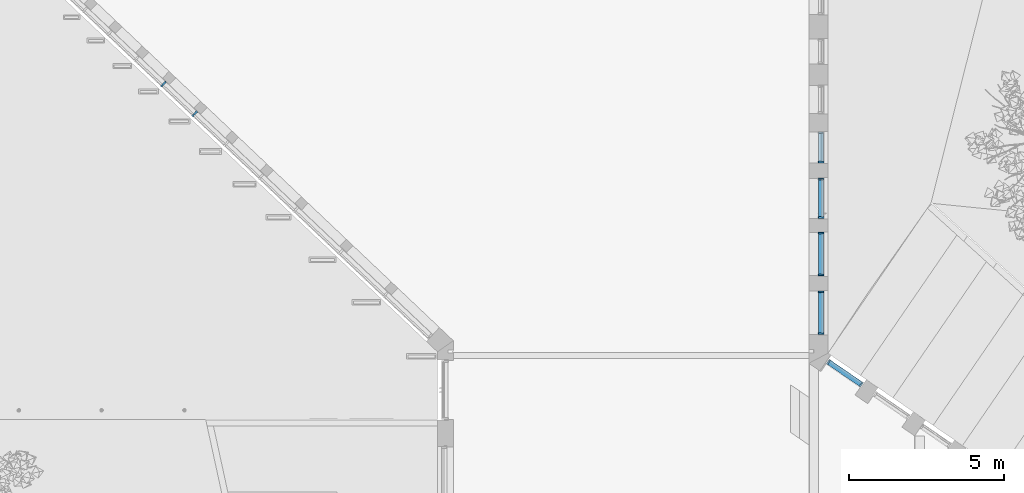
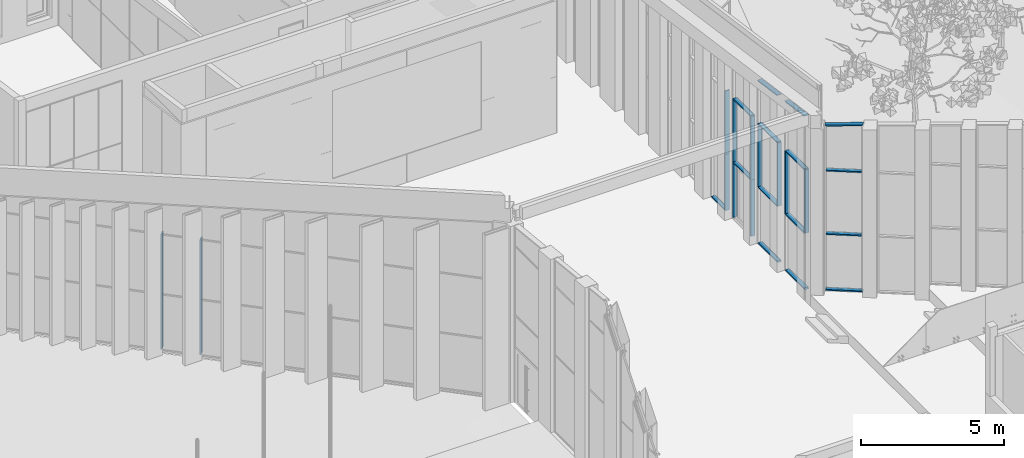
# One storey, part 10 of 246: 29 members, 6 elements without a shape of their own.
"""IFC2X3 building model written with IfcOpenShell, lengths in millimetres."""

from ifc_helpers import new_model, entity, si_unit, converted_unit, derived_unit, money_unit, direction, frame, origin_with_axes, place, context, subcontext, project, spatial, faceted_brep, source, transform, mapped, material, type_object, element, aggregate, save


model = new_model("IFC2X3")

# Units and contexts
model_context = context("Model", 3, precision=0.01, world=origin_with_axes(), true_north=direction((0.0, 1.0)))
body_context = subcontext(model_context, "Body", "Model", "MODEL_VIEW")
ifc_project = project(units=[si_unit("LENGTHUNIT", "METRE", prefix="MILLI"), si_unit("AREAUNIT", "SQUARE_METRE"), si_unit("VOLUMEUNIT", "CUBIC_METRE"), converted_unit("PLANEANGLEUNIT", "DEGREE", entity("IfcPlaneAngleMeasure", 0.0174532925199), si_unit("PLANEANGLEUNIT", "RADIAN"), dimensions=[0, 0, 0, 0, 0, 0, 0]), si_unit("SOLIDANGLEUNIT", "STERADIAN"), money_unit("EUR"), converted_unit("TIMEUNIT", "Year", entity("IfcTimeMeasure", 31556926.0), si_unit("TIMEUNIT", "SECOND"), dimensions=[0, 0, 1, 0, 0, 0, 0]), si_unit("MASSUNIT", "GRAM", prefix="KILO"), si_unit("THERMODYNAMICTEMPERATUREUNIT", "DEGREE_CELSIUS"), si_unit("LUMINOUSINTENSITYUNIT", "LUMEN"), si_unit("ENERGYUNIT", "JOULE", prefix="MEGA"), derived_unit("THERMALCONDUCTANCEUNIT", [(si_unit("POWERUNIT", "WATT"), 1), (si_unit("LENGTHUNIT", "METRE"), -1), (si_unit("THERMODYNAMICTEMPERATUREUNIT", "KELVIN"), -1)]), derived_unit("SPECIFICHEATCAPACITYUNIT", [(si_unit("ENERGYUNIT", "JOULE"), 1), (si_unit("MASSUNIT", "GRAM", prefix="KILO"), -1), (si_unit("THERMODYNAMICTEMPERATUREUNIT", "KELVIN"), -1)]), derived_unit("MASSDENSITYUNIT", [(si_unit("MASSUNIT", "GRAM", prefix="KILO"), 1), (si_unit("VOLUMEUNIT", "CUBIC_METRE"), -1)])], contexts=[model_context])

# Site, building, storey
site_placement = place(None, origin_with_axes())
site = spatial("IfcSite", under=ifc_project, at=site_placement, Name="L.Koidula tn 11b", CompositionType="ELEMENT")
building_placement = place(site_placement, origin_with_axes())
building = spatial("IfcBuilding", under=site, at=building_placement, Name="Rakvere Riigigümnaasium", CompositionType="ELEMENT")
storey_placement = place(building_placement, origin_with_axes())
storey = spatial("IfcBuildingStorey", under=building, at=storey_placement, Name="1.korrus 0,00", CompositionType="ELEMENT", Elevation=0.0)

# Curtain wall, members
curtain_wall_type = type_object("IfcCurtainWallType", Name="Curtain Wall Type", PredefinedType="NOTDEFINED")
curtain_wall_1_placement = place(storey_placement, frame((47434.0002355, 45350.4555374, 5.21984029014), z_axis=(0.0, 0.0, 1.0), x_axis=(1.0, 0.0, 0.0)))
curtain_wall_1 = element("IfcCurtainWall", 1, at=curtain_wall_1_placement, inside=storey, type_object=curtain_wall_type, Name="KLF-07-01")
ifc_material = material(Name="Alumiiniumprofiil (RAL 7021)")
member_type_1 = type_object("IfcMemberType", Name="Boundary Frame 50 x 170", PredefinedType="MULLION")
shared_shape_1 = source(origin_with_axes(), body_context, "Body", "Brep", [
    faceted_brep([(-37.0, -26.0, 2700.00000012), (-50.0, -26.0, 2700.00000012), (-50.0, -124.0, 2700.00000012), (0.0, -124.0, 2700.00000012), (0.0, 46.0, 2700.00000012), (-50.0, 46.0, 2700.00000012), (-50.0, 26.0, 2700.00000012), (-37.0, 26.0, 2700.00000012), (-37.0, -26.0, -5.18836085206e-07), (-50.0, -26.0, -5.18836307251e-07), (-50.0, -124.0, -5.18836307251e-07), (0.0, -124.0, -5.18836307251e-07), (0.0, 46.0, -5.18836307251e-07), (-50.0, 46.0, -5.18836307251e-07), (-50.0, 26.0, -5.18836307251e-07), (-37.0, 26.0, -5.18836085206e-07)], [[[0, 1, 2, 3, 4, 5, 6, 7]], [[0, 8, 9, 1]], [[9, 10, 2, 1]], [[10, 11, 3, 2]], [[11, 12, 4, 3]], [[12, 13, 5, 4]], [[6, 5, 13, 14]], [[14, 15, 7, 6]], [[7, 15, 8, 0]], [[8, 15, 14, 13, 12, 11, 10, 9]]]),
])
member_1_placement = place(curtain_wall_1_placement, frame((-0.000241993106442, -699.999963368, 2394.78015971), z_axis=(0.0, 5.41248560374e-09, 1.0), x_axis=(3.45704454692e-07, 1.0, -5.41248560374e-09)))
member_1 = element("IfcMember", 2, at=member_1_placement, type_object=member_type_1, material=ifc_material, Name="KLF-07-06-Profiilid", ObjectType="MULLION", context=body_context, shape_type="MappedRepresentation", body=[
    mapped(shared_shape_1, transform((0.0, 0.0, 0.0), x_axis=(-1.0, 0.0, -5.41248560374e-09), y_axis=(0.0, -1.0, 0.0), z_axis=(-5.41248560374e-09, 0.0, 1.0))),
])
member_2_placement = place(curtain_wall_1_placement, frame((0.000241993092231, 699.999914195, 5094.78015971), z_axis=(0.0, 3.13438795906e-08, -1.0), x_axis=(-3.45704454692e-07, -1.0, -3.13438795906e-08)))
member_2 = element("IfcMember", 3, at=member_2_placement, type_object=member_type_1, material=ifc_material, Name="KLF-07-10-Profiilid", ObjectType="MULLION", context=body_context, shape_type="MappedRepresentation", body=[
    mapped(shared_shape_1, transform((0.0, 0.0, 0.0), x_axis=(-1.0, 0.0, 3.13438794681e-08), y_axis=(0.0, -1.0, 0.0), z_axis=(3.13438794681e-08, 0.0, 1.0))),
])

# Curtain wall, member
curtain_wall_2_placement = place(storey_placement, frame((47434.0004775, 47250.4555065, 5.1807707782), z_axis=(0.0, 0.0, 1.0), x_axis=(1.0, 0.0, 0.0)))
curtain_wall_2 = element("IfcCurtainWall", 4, at=curtain_wall_2_placement, inside=storey, type_object=curtain_wall_type, Name="KLF-07-02")
member_3_placement = place(curtain_wall_2_placement, frame((0.0, -699.999994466, 2394.81922922), z_axis=(0.0, -8.15769377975e-09, 1.0), x_axis=(0.0, 1.0, 8.15769377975e-09)))
member_3 = element("IfcMember", 5, at=member_3_placement, type_object=member_type_1, material=ifc_material, Name="KLF-07-85-Profiilid", ObjectType="MULLION", context=body_context, shape_type="MappedRepresentation", body=[
    mapped(shared_shape_1, transform((0.0, 0.0, 0.0), x_axis=(-1.0, 0.0, 8.15769377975e-09), y_axis=(0.0, -1.0, 0.0), z_axis=(8.15769377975e-09, 0.0, 1.0))),
])

# Curtain wall, members
curtain_wall_3_placement = place(storey_placement, frame((47434.0004775, 49050.4555635, 0.0), z_axis=(0.0, 0.0, 1.0), x_axis=(1.0, 0.0, 0.0)))
curtain_wall_3 = element("IfcCurtainWall", 6, at=curtain_wall_3_placement, inside=storey, type_object=curtain_wall_type, Name="KLF-07-03")
member_4_placement = place(curtain_wall_3_placement, frame((0.0, -649.999959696, 2400.0), z_axis=(0.0, 1.25973700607e-08, 1.0), x_axis=(0.0, 1.0, -1.25973700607e-08)))
member_4 = element("IfcMember", 7, at=member_4_placement, type_object=member_type_1, material=ifc_material, Name="KLF-07-72-Profiilid", ObjectType="MULLION", context=body_context, shape_type="MappedRepresentation", body=[
    mapped(shared_shape_1, transform((0.0, 0.0, 0.0), x_axis=(-1.0, 0.0, -1.25973700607e-08), y_axis=(0.0, -1.0, 0.0), z_axis=(-1.25973700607e-08, 0.0, 1.0))),
])
member_5_placement = place(curtain_wall_3_placement, frame((0.0, 649.99994269, 5100.0), z_axis=(0.0, 0.0, -1.0), x_axis=(0.0, -1.0, 0.0)))
member_5 = element("IfcMember", 8, at=member_5_placement, type_object=member_type_1, material=ifc_material, Name="KLF-07-76-Profiilid", ObjectType="MULLION", context=body_context, shape_type="MappedRepresentation", body=[
    mapped(shared_shape_1, transform((0.0, 0.0, 0.0), x_axis=(-1.0, 0.0, 0.0), y_axis=(0.0, -1.0, 0.0), z_axis=(0.0, 0.0, 1.0))),
])

curtain_wall_4_placement = place(storey_placement, frame((47434.0004775, 50700.4459651, -5.70142248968e-05), z_axis=(0.0, 0.0, 1.0), x_axis=(1.0, 0.0, 0.0)))
curtain_wall_4 = element("IfcCurtainWall", 9, at=curtain_wall_4_placement, inside=storey, type_object=curtain_wall_type, Name="KLF-07-04")
member_6_placement = place(curtain_wall_4_placement, frame((0.0, -500.000114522, 2400.00005701), z_axis=(0.0, 4.60176134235e-08, 1.0), x_axis=(0.0, 1.0, -4.60176134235e-08)))
member_6 = element("IfcMember", 10, at=member_6_placement, type_object=member_type_1, material=ifc_material, Name="KLF-07-88-Profiilid", ObjectType="MULLION", context=body_context, shape_type="MappedRepresentation", body=[
    mapped(shared_shape_1, transform((0.0, 0.0, 0.0), x_axis=(-1.0, 0.0, -4.60176134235e-08), y_axis=(0.0, -1.0, 0.0), z_axis=(-4.60176134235e-08, 0.0, 1.0))),
])
shared_shape_2 = source(origin_with_axes(), body_context, "Body", "Brep", [
    faceted_brep([(-37.0, -26.0, 2400.00000019), (-50.0, -26.0, 2400.00000019), (-50.0, -124.0, 2400.00000019), (0.0, -124.0, 2400.00000019), (0.0, 46.0, 2400.00000019), (-50.0, 46.0, 2400.00000019), (-50.0, 26.0, 2400.00000019), (-37.0, 26.0, 2400.00000019), (-37.0, -26.0, 37.0), (-50.0, -26.0, 50.0), (-50.0, -124.0, 50.0), (0.0, -124.0, 0.0), (0.0, 46.0, 0.0), (-50.0, 46.0, 50.0), (-50.0, 26.0, 50.0), (-37.0, 26.0, 37.0)], [[[0, 1, 2, 3, 4, 5, 6, 7]], [[0, 8, 9, 1]], [[9, 10, 2, 1]], [[2, 10, 11, 3]], [[3, 11, 12, 4]], [[4, 12, 13, 5]], [[6, 5, 13, 14]], [[14, 15, 7, 6]], [[7, 15, 8, 0]], [[8, 15, 14, 13, 12, 11, 10, 9]]]),
])
member_7_placement = place(curtain_wall_4_placement, frame((0.0, -500.000212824, 0.0), z_axis=(0.0, 4.09593090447e-08, 1.0), x_axis=(0.0, 1.0, -4.09593090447e-08)))
member_7 = element("IfcMember", 11, at=member_7_placement, type_object=member_type_1, material=ifc_material, Name="KLF-07-87-Profiilid", ObjectType="MULLION", context=body_context, shape_type="MappedRepresentation", body=[
    mapped(shared_shape_2, transform((0.0, 0.0, 0.0), x_axis=(-1.0, 0.0, -4.09593090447e-08), y_axis=(0.0, -1.0, 0.0), z_axis=(-4.09593090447e-08, 0.0, 1.0))),
])

# Member
shared_shape_3 = source(origin_with_axes(), body_context, "Body", "Brep", [
    faceted_brep([(-37.0, -26.0, 2362.99999837), (-50.0, -26.0, 2349.99999779), (-50.0, -124.0, 2349.99999779), (0.0, -124.0, 2400.0), (0.0, 46.0, 2400.0), (-50.0, 46.0, 2349.99999779), (-50.0, 26.0, 2349.99999779), (-37.0, 26.0, 2362.99999837), (-37.0, -26.0, -1.22574839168e-07), (-50.0, -26.0, -1.22575061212e-07), (-50.0, -124.0, -1.22575061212e-07), (0.0, -124.0, -1.22575061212e-07), (0.0, 46.0, -1.22575061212e-07), (-50.0, 46.0, -1.22575061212e-07), (-50.0, 26.0, -1.22575061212e-07), (-37.0, 26.0, -1.22574839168e-07)], [[[0, 1, 2, 3, 4, 5, 6, 7]], [[0, 8, 9, 1]], [[9, 10, 2, 1]], [[10, 11, 3, 2]], [[11, 12, 4, 3]], [[12, 13, 5, 4]], [[6, 5, 13, 14]], [[14, 15, 7, 6]], [[7, 15, 8, 0]], [[8, 15, 14, 13, 12, 11, 10, 9]]]),
])
member_8_placement = place(curtain_wall_3_placement, frame((0.0, 649.99994269, 2400.0), z_axis=(0.0, 0.0, -1.0), x_axis=(0.0, -1.0, 0.0)))
member_8 = element("IfcMember", 12, at=member_8_placement, type_object=member_type_1, material=ifc_material, Name="KLF-07-69-Profiilid", ObjectType="MULLION", context=body_context, shape_type="MappedRepresentation", body=[
    mapped(shared_shape_3, transform((0.0, 0.0, 0.0), x_axis=(-1.0, 0.0, 0.0), y_axis=(0.0, -1.0, 0.0), z_axis=(0.0, 0.0, 1.0))),
])

shared_shape_4 = source(origin_with_axes(), body_context, "Body", "Brep", [
    faceted_brep([(-37.0, -26.0, 2400.00000087), (-50.0, -26.0, 2400.00000087), (-50.0, -124.0, 2400.00000087), (0.0, -124.0, 2400.00000087), (0.0, 46.0, 2400.00000087), (-50.0, 46.0, 2400.00000087), (-50.0, 26.0, 2400.00000087), (-37.0, 26.0, 2400.00000087), (-37.0, -26.0, -6.12986372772e-06), (-50.0, -26.0, -6.12986394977e-06), (-50.0, -124.0, -6.12986394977e-06), (0.0, -124.0, -6.12986394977e-06), (0.0, 46.0, -6.12986394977e-06), (-50.0, 46.0, -6.12986394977e-06), (-50.0, 26.0, -6.12986394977e-06), (-37.0, 26.0, -6.12986372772e-06)], [[[0, 1, 2, 3, 4, 5, 6, 7]], [[0, 8, 9, 1]], [[9, 10, 2, 1]], [[10, 11, 3, 2]], [[11, 12, 4, 3]], [[12, 13, 5, 4]], [[6, 5, 13, 14]], [[14, 15, 7, 6]], [[7, 15, 8, 0]], [[8, 15, 14, 13, 12, 11, 10, 9]]]),
])
member_9_placement = place(curtain_wall_3_placement, frame((0.0, -649.999959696, 0.0), z_axis=(0.0, 0.0, 1.0), x_axis=(0.0, 1.0, 0.0)))
member_9 = element("IfcMember", 13, at=member_9_placement, type_object=member_type_1, material=ifc_material, Name="KLF-07-71-Profiilid", ObjectType="MULLION", context=body_context, shape_type="MappedRepresentation", body=[
    mapped(shared_shape_4, transform((0.0, 0.0, 0.0), x_axis=(-1.0, 0.0, 0.0), y_axis=(0.0, -1.0, 0.0), z_axis=(0.0, 0.0, 1.0))),
])

# Curtain wall, members
curtain_wall_5_placement = place(storey_placement, frame((33997.0353268, 45217.6604975, 0.0), z_axis=(0.0, 0.0, 1.0), x_axis=(1.0, 0.0, 0.0)))
curtain_wall_5 = element("IfcCurtainWall", 14, at=curtain_wall_5_placement, inside=storey, type_object=curtain_wall_type, Name="KLF-02")
member_type_2 = type_object("IfcMemberType", Name="Mullion Frame 50 x 210", PredefinedType="MULLION")
shared_shape_5 = source(origin_with_axes(), body_context, "Body", "Brep", [
    faceted_brep([(12.0, -26.0, 2550.0), (12.0, 26.0, 2550.0), (25.0, 26.0, 2550.0), (25.0, 56.0, 2550.0), (-25.0, 56.0, 2550.0), (-25.0, 26.0, 2550.0), (-12.0, 26.0, 2550.0), (-12.0, -26.0, 2550.0), (-25.0, -26.0, 2550.0), (-25.0, -154.0, 2550.0), (25.0, -154.0, 2550.0), (25.0, -26.0, 2550.0), (12.0, -26.0, 0.0), (12.0, 26.0, 0.0), (25.0, 26.0, 0.0), (25.0, 56.0, 0.0), (-25.0, 56.0, 0.0), (-25.0, 26.0, 0.0), (-12.0, 26.0, 0.0), (-12.0, -26.0, 0.0), (-25.0, -26.0, 0.0), (-25.0, -154.0, 0.0), (25.0, -154.0, 0.0), (25.0, -26.0, 0.0)], [[[0, 1, 2, 3, 4, 5, 6, 7, 8, 9, 10, 11]], [[0, 12, 13, 1]], [[1, 13, 14, 2]], [[14, 15, 3, 2]], [[3, 15, 16, 4]], [[17, 5, 4, 16]], [[5, 17, 18, 6]], [[7, 6, 18, 19]], [[8, 7, 19, 20]], [[8, 20, 21, 9]], [[9, 21, 22, 10]], [[11, 10, 22, 23]], [[11, 23, 12, 0]], [[13, 12, 23, 22, 21, 20, 19, 18, 17, 16, 15, 14]]]),
])
member_10_placement = place(curtain_wall_5_placement, frame((-7912.96649805, 7496.32984872, 2400.00031279), z_axis=(0.0, 0.0, 1.0), x_axis=(0.725960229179, -0.687736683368, 0.0)))
member_10 = element("IfcMember", 15, at=member_10_placement, type_object=member_type_2, material=ifc_material, Name="KLF-25-Profiilid", ObjectType="MULLION", context=body_context, shape_type="MappedRepresentation", body=[
    mapped(shared_shape_5, transform((0.0, 0.0, 0.0), x_axis=(-1.0, 0.0, 0.0), y_axis=(0.0, -1.0, 0.0), z_axis=(0.0, 0.0, 1.0))),
])
member_11_placement = place(curtain_wall_5_placement, frame((-6896.6221772, 6533.498492, 2400.00031279), z_axis=(0.0, 0.0, 1.0), x_axis=(0.725960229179, -0.687736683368, 0.0)))
member_11 = element("IfcMember", 16, at=member_11_placement, type_object=member_type_2, material=ifc_material, Name="KLF-22-Profiilid", ObjectType="MULLION", context=body_context, shape_type="MappedRepresentation", body=[
    mapped(shared_shape_5, transform((0.0, 0.0, 0.0), x_axis=(-1.0, 0.0, 0.0), y_axis=(0.0, -1.0, 0.0), z_axis=(0.0, 0.0, 1.0))),
])
shared_shape_6 = source(origin_with_axes(), body_context, "Body", "Brep", [
    faceted_brep([(12.0, -26.0, 2400.00031279), (12.0, 26.0, 2400.00031279), (25.0, 26.0, 2400.00031279), (25.0, 56.0, 2400.00031279), (-25.0, 56.0, 2400.00031279), (-25.0, 26.0, 2400.00031279), (-12.0, 26.0, 2400.00031279), (-12.0, -26.0, 2400.00031279), (-25.0, -26.0, 2400.00031279), (-25.0, -154.0, 2400.00031279), (25.0, -154.0, 2400.00031279), (25.0, -26.0, 2400.00031279), (12.0, -26.0, 50.0), (12.0, 26.0, 50.0), (25.0, 26.0, 50.0), (25.0, 56.0, 50.0), (-25.0, 56.0, 50.0), (-25.0, 26.0, 50.0), (-12.0, 26.0, 50.0), (-12.0, -26.0, 50.0), (-25.0, -26.0, 50.0), (-25.0, -154.0, 50.0), (25.0, -154.0, 50.0), (25.0, -26.0, 50.0)], [[[0, 1, 2, 3, 4, 5, 6, 7, 8, 9, 10, 11]], [[0, 12, 13, 1]], [[1, 13, 14, 2]], [[14, 15, 3, 2]], [[4, 3, 15, 16]], [[17, 5, 4, 16]], [[5, 17, 18, 6]], [[7, 6, 18, 19]], [[8, 7, 19, 20]], [[8, 20, 21, 9]], [[10, 9, 21, 22]], [[11, 10, 22, 23]], [[11, 23, 12, 0]], [[13, 12, 23, 22, 21, 20, 19, 18, 17, 16, 15, 14]]]),
])
member_12_placement = place(curtain_wall_5_placement, frame((-7912.96649805, 7496.32984872, 0.0), z_axis=(0.0, 0.0, 1.0), x_axis=(0.725960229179, -0.687736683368, 0.0)))
member_12 = element("IfcMember", 17, at=member_12_placement, type_object=member_type_2, material=ifc_material, Name="KLF-24-Profiilid", ObjectType="MULLION", context=body_context, shape_type="MappedRepresentation", body=[
    mapped(shared_shape_6, transform((0.0, 0.0, 0.0), x_axis=(-1.0, 0.0, 0.0), y_axis=(0.0, -1.0, 0.0), z_axis=(0.0, 0.0, 1.0))),
])
member_13_placement = place(curtain_wall_5_placement, frame((-6896.6221772, 6533.498492, 0.0), z_axis=(0.0, 0.0, 1.0), x_axis=(0.725960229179, -0.687736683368, 0.0)))
member_13 = element("IfcMember", 18, at=member_13_placement, type_object=member_type_2, material=ifc_material, Name="KLF-21-Profiilid", ObjectType="MULLION", context=body_context, shape_type="MappedRepresentation", body=[
    mapped(shared_shape_6, transform((0.0, 0.0, 0.0), x_axis=(-1.0, 0.0, 0.0), y_axis=(0.0, -1.0, 0.0), z_axis=(0.0, 0.0, 1.0))),
])
aggregate(curtain_wall_5, [member_10, member_12, member_11, member_13])

# Member
shared_shape_7 = source(origin_with_axes(), body_context, "Body", "Brep", [
    faceted_brep([(37.0, -26.0, 2700.0), (37.0, 26.0, 2700.0), (50.0, 26.0, 2700.0), (50.0, 46.0, 2700.0), (0.0, 46.0, 2700.0), (0.0, -124.0, 2700.0), (50.0, -124.0, 2700.0), (50.0, -26.0, 2700.0), (37.0, -26.0, 0.0), (37.0, 26.0, 0.0), (50.0, 26.0, 0.0), (50.0, 46.0, 0.0), (0.0, 46.0, 0.0), (0.0, -124.0, 0.0), (50.0, -124.0, 0.0), (50.0, -26.0, 0.0)], [[[0, 1, 2, 3, 4, 5, 6, 7]], [[1, 0, 8, 9]], [[10, 2, 1, 9]], [[2, 10, 11, 3]], [[12, 4, 3, 11]], [[13, 5, 4, 12]], [[14, 6, 5, 13]], [[15, 7, 6, 14]], [[0, 7, 15, 8]], [[8, 15, 14, 13, 12, 11, 10, 9]]]),
])
member_14_placement = place(curtain_wall_2_placement, frame((0.0, 700.000016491, 2394.81922922), z_axis=(0.0, 0.0, 1.0), x_axis=(0.0, 1.0, 0.0)))
member_14 = element("IfcMember", 19, at=member_14_placement, type_object=member_type_1, material=ifc_material, Name="KLF-07-89-Profiilid", ObjectType="MULLION", context=body_context, shape_type="MappedRepresentation", body=[
    mapped(shared_shape_7, transform((0.0, 0.0, 0.0), x_axis=(-1.0, 0.0, 0.0), y_axis=(0.0, -1.0, 0.0), z_axis=(0.0, 0.0, 1.0))),
])

shared_shape_8 = source(origin_with_axes(), body_context, "Body", "Brep", [
    faceted_brep([(-37.0, -26.0, 963.000201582), (-50.0, -26.0, 950.00020105), (-50.0, -124.0, 950.00020105), (0.0, -124.0, 1000.0002031), (0.0, 46.0, 1000.0002031), (-50.0, 46.0, 950.00020105), (-50.0, 26.0, 950.00020105), (-37.0, 26.0, 963.000201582), (-37.0, -26.0, 37.0), (-50.0, -26.0, 50.0), (-50.0, -124.0, 50.0), (0.0, -124.0, 0.0), (0.0, 46.0, 0.0), (-50.0, 46.0, 50.0), (-50.0, 26.0, 50.0), (-37.0, 26.0, 37.0)], [[[0, 1, 2, 3, 4, 5, 6, 7]], [[0, 8, 9, 1]], [[9, 10, 2, 1]], [[2, 10, 11, 3]], [[3, 11, 12, 4]], [[4, 12, 13, 5]], [[6, 5, 13, 14]], [[14, 15, 7, 6]], [[7, 15, 8, 0]], [[8, 15, 14, 13, 12, 11, 10, 9]]]),
])
member_15_placement = place(curtain_wall_4_placement, frame((0.0, 499.999990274, 0.0), z_axis=(0.0, -1.0, 0.0), x_axis=(0.0, 0.0, 1.0)))
member_15 = element("IfcMember", 20, at=member_15_placement, type_object=member_type_1, material=ifc_material, Name="KLF-07-86-Profiilid", ObjectType="MULLION", context=body_context, shape_type="MappedRepresentation", body=[
    mapped(shared_shape_8, transform((0.0, 0.0, 0.0), x_axis=(-1.0, 0.0, 0.0), y_axis=(0.0, -1.0, 0.0), z_axis=(0.0, 0.0, 1.0))),
])

aggregate(curtain_wall_4, [member_15, member_6, member_7])

# Curtain wall, members
curtain_wall_6_placement = place(storey_placement, frame((48188.9005026, 43426.6609741, 465.0), z_axis=(0.0, 0.0, 1.0), x_axis=(1.0, 0.0, 0.0)))
curtain_wall_6 = element("IfcCurtainWall", 21, at=curtain_wall_6_placement, inside=storey, type_object=curtain_wall_type, Name="KLF-06-29")
member_type_3 = type_object("IfcMemberType", Name="Transom Frame 50 x 170", PredefinedType="MULLION")
shared_shape_9 = source(origin_with_axes(), body_context, "Body", "Brep", [
    faceted_brep([(12.0, -26.0, 1289.99984912), (12.0, 26.0, 1289.99984969), (25.0, 26.0, 1289.99984969), (25.0, 46.0, 1289.99984991), (-25.0, 46.0, 1289.99984991), (-25.0, 26.0, 1289.99984969), (-12.0, 26.0, 1289.99984969), (-12.0, -26.0, 1289.99984912), (-25.0, -26.0, 1289.99984912), (-25.0, -124.0, 1289.99984804), (25.0, -124.0, 1289.99984804), (25.0, -26.0, 1289.99984912), (12.0, -26.0, 50.0000010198), (12.0, 26.0, 49.9999989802), (25.0, 26.0, 49.9999989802), (25.0, 46.0, 49.9999981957), (-25.0, 46.0, 49.9999981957), (-25.0, 26.0, 49.9999989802), (-12.0, 26.0, 49.9999989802), (-12.0, -26.0, 50.0000010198), (-25.0, -26.0, 50.0000010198), (-25.0, -124.0, 50.0000048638), (25.0, -124.0, 50.0000048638), (25.0, -26.0, 50.0000010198)], [[[0, 1, 2, 3, 4, 5, 6, 7, 8, 9, 10, 11]], [[0, 12, 13, 1]], [[1, 13, 14, 2]], [[14, 15, 3, 2]], [[4, 3, 15, 16]], [[17, 5, 4, 16]], [[5, 17, 18, 6]], [[7, 6, 18, 19]], [[8, 7, 19, 20]], [[8, 20, 21, 9]], [[10, 9, 21, 22]], [[11, 10, 22, 23]], [[11, 23, 12, 0]], [[13, 12, 23, 22, 21, 20, 19, 18, 17, 16, 15, 14]]]),
])
member_16_placement = place(curtain_wall_6_placement, frame((-552.526290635, 378.965110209, 5100.0), z_axis=(0.824666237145, -0.565619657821, 0.0), x_axis=(0.0, 0.0, 1.0)))
member_16 = element("IfcMember", 22, at=member_16_placement, type_object=member_type_3, material=ifc_material, Name="KLF-06-29-Profiilid", ObjectType="MULLION", context=body_context, shape_type="MappedRepresentation", body=[
    mapped(shared_shape_9, transform((0.0, 0.0, 0.0), x_axis=(-1.0, 0.0, 0.0), y_axis=(0.0, -1.0, 0.0), z_axis=(0.0, 0.0, 1.0))),
])
member_17_placement = place(curtain_wall_6_placement, frame((-552.526377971, 378.965170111, 2400.0), z_axis=(0.824666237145, -0.565619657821, 0.0), x_axis=(0.0, 0.0, 1.0)))
member_17 = element("IfcMember", 23, at=member_17_placement, type_object=member_type_3, material=ifc_material, Name="KLF-06-29-Profiilid", ObjectType="MULLION", context=body_context, shape_type="MappedRepresentation", body=[
    mapped(shared_shape_9, transform((0.0, 0.0, 0.0), x_axis=(-1.0, 0.0, 0.0), y_axis=(0.0, -1.0, 0.0), z_axis=(0.0, 0.0, 1.0))),
])

# Member
shared_shape_10 = source(origin_with_axes(), body_context, "Body", "Brep", [
    faceted_brep([(12.0, -26.0, 1349.99996142), (12.0, 26.0, 1349.99996296), (25.0, 26.0, 1349.99996296), (25.0, 46.0, 1349.99996355), (-25.0, 46.0, 1349.99996355), (-25.0, 26.0, 1349.99996296), (-12.0, 26.0, 1349.99996296), (-12.0, -26.0, 1349.99996142), (-25.0, -26.0, 1349.99996142), (-25.0, -124.0, 1349.99995852), (25.0, -124.0, 1349.99995852), (25.0, -26.0, 1349.99996142), (12.0, -26.0, 50.0), (12.0, 26.0, 50.0), (25.0, 26.0, 50.0), (25.0, 46.0, 50.0), (-25.0, 46.0, 50.0), (-25.0, 26.0, 50.0), (-12.0, 26.0, 50.0), (-12.0, -26.0, 50.0), (-25.0, -26.0, 50.0), (-25.0, -124.0, 50.0), (25.0, -124.0, 50.0), (25.0, -26.0, 50.0)], [[[0, 1, 2, 3, 4, 5, 6, 7, 8, 9, 10, 11]], [[0, 12, 13, 1]], [[1, 13, 14, 2]], [[14, 15, 3, 2]], [[4, 3, 15, 16]], [[17, 5, 4, 16]], [[5, 17, 18, 6]], [[7, 6, 18, 19]], [[8, 7, 19, 20]], [[8, 20, 21, 9]], [[10, 9, 21, 22]], [[11, 10, 22, 23]], [[11, 23, 12, 0]], [[13, 12, 23, 22, 21, 20, 19, 18, 17, 16, 15, 14]]]),
])
member_18_placement = place(curtain_wall_1_placement, frame((0.000241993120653, 699.999998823, 2394.78015971), z_axis=(-3.45704457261e-07, -1.0, 0.0), x_axis=(0.0, 0.0, 1.0)))
member_18 = element("IfcMember", 24, at=member_18_placement, type_object=member_type_3, material=ifc_material, Name="KLF-07-06-Profiilid", ObjectType="MULLION", context=body_context, shape_type="MappedRepresentation", body=[
    mapped(shared_shape_10, transform((0.0, 0.0, 0.0), x_axis=(-1.0, 0.0, 0.0), y_axis=(0.0, -1.0, -3.45704457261e-07), z_axis=(0.0, -3.45704457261e-07, 1.0))),
])

member_19_placement = place(curtain_wall_1_placement, frame((0.000241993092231, 699.999914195, 5094.78015971), z_axis=(-3.45704456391e-07, -1.0, 0.0), x_axis=(0.0, 0.0, 1.0)))
member_19 = element("IfcMember", 25, at=member_19_placement, type_object=member_type_3, material=ifc_material, Name="KLF-07-61-Profiilid", ObjectType="MULLION", context=body_context, shape_type="MappedRepresentation", body=[
    mapped(shared_shape_10, transform((0.0, 0.0, 0.0), x_axis=(-1.0, 0.0, 0.0), y_axis=(0.0, -1.0, -3.45704456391e-07), z_axis=(0.0, -3.45704456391e-07, 1.0))),
])

member_20_placement = place(curtain_wall_2_placement, frame((0.0, 700.000016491, 5094.81922922), z_axis=(0.0, -1.0, 0.0), x_axis=(0.0, 0.0, 1.0)))
member_20 = element("IfcMember", 26, at=member_20_placement, type_object=member_type_3, material=ifc_material, Name="KLF-07-10-Profiilid", ObjectType="MULLION", context=body_context, shape_type="MappedRepresentation", body=[
    mapped(shared_shape_10, transform((0.0, 0.0, 0.0), x_axis=(-1.0, 0.0, 0.0), y_axis=(0.0, -1.0, 0.0), z_axis=(0.0, 0.0, 1.0))),
])

member_21_placement = place(curtain_wall_2_placement, frame((0.0, 700.000016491, 2394.81922922), z_axis=(0.0, -1.0, 0.0), x_axis=(0.0, 0.0, 1.0)))
member_21 = element("IfcMember", 27, at=member_21_placement, type_object=member_type_3, material=ifc_material, Name="KLF-07-11-Profiilid", ObjectType="MULLION", context=body_context, shape_type="MappedRepresentation", body=[
    mapped(shared_shape_10, transform((0.0, 0.0, 0.0), x_axis=(-1.0, 0.0, 0.0), y_axis=(0.0, -1.0, 0.0), z_axis=(0.0, 0.0, 1.0))),
])

shared_shape_11 = source(origin_with_axes(), body_context, "Body", "Brep", [
    faceted_brep([(-37.0, -26.0, 1303.00004025), (-50.0, -26.0, 1290.00004025), (-50.0, -124.0, 1290.00004025), (0.0, -124.0, 1340.00004025), (0.0, 46.0, 1340.00004025), (-50.0, 46.0, 1290.00004025), (-50.0, 26.0, 1290.00004025), (-37.0, 26.0, 1303.00004025), (-37.0, -26.0, 37.0000016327), (-50.0, -26.0, 50.0000022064), (-50.0, -124.0, 50.0000022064), (0.0, -124.0, 0.0), (0.0, 46.0, 0.0), (-50.0, 46.0, 50.0000022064), (-50.0, 26.0, 50.0000022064), (-37.0, 26.0, 37.0000016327)], [[[0, 1, 2, 3, 4, 5, 6, 7]], [[0, 8, 9, 1]], [[9, 10, 2, 1]], [[2, 10, 11, 3]], [[3, 11, 12, 4]], [[4, 12, 13, 5]], [[6, 5, 13, 14]], [[14, 15, 7, 6]], [[7, 15, 8, 0]], [[8, 15, 14, 13, 12, 11, 10, 9]]]),
])
member_22_placement = place(curtain_wall_6_placement, frame((-552.526465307, 378.965230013, 0.0), z_axis=(0.824666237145, -0.565619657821, 0.0), x_axis=(0.0, 0.0, 1.0)))
member_22 = element("IfcMember", 28, at=member_22_placement, type_object=member_type_1, material=ifc_material, Name="KLF-06-46-Profiilid", ObjectType="MULLION", context=body_context, shape_type="MappedRepresentation", body=[
    mapped(shared_shape_11, transform((0.0, 0.0, 0.0), x_axis=(-1.0, 0.0, 0.0), y_axis=(0.0, -1.0, 0.0), z_axis=(0.0, 0.0, 1.0))),
])

shared_shape_12 = source(origin_with_axes(), body_context, "Body", "Brep", [
    faceted_brep([(-37.0, -26.0, 1307.49851962), (-50.0, -26.0, 1295.24825308), (-50.0, -124.0, 1295.24825308), (0.0, -124.0, 1342.36466283), (0.0, 46.0, 1342.36466283), (-50.0, 46.0, 1295.24825308), (-50.0, 26.0, 1295.24825308), (-37.0, 26.0, 1307.49851962), (-37.0, -26.0, 39.2644515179), (-50.0, -26.0, 53.0600696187), (-50.0, -124.0, 53.0600696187), (0.0, -124.0, 0.0), (0.0, 46.0, 0.0), (-50.0, 46.0, 53.0600696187), (-50.0, 26.0, 53.0600696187), (-37.0, 26.0, 39.2644515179)], [[[0, 1, 2, 3, 4, 5, 6, 7]], [[0, 8, 9, 1]], [[9, 10, 2, 1]], [[2, 10, 11, 3]], [[3, 11, 12, 4]], [[4, 12, 13, 5]], [[6, 5, 13, 14]], [[14, 15, 7, 6]], [[7, 15, 8, 0]], [[8, 15, 14, 13, 12, 11, 10, 9]]]),
])
member_23_placement = place(curtain_wall_6_placement, frame((552.526361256, -378.965158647, 7118.66110987), z_axis=(-0.823213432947, 0.564623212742, -0.0593318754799), x_axis=(0.0489289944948, -0.0335592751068, -0.998238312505)))
member_23 = element("IfcMember", 29, at=member_23_placement, type_object=member_type_1, material=ifc_material, Name="KLF-06-50-Profiilid", ObjectType="MULLION", context=body_context, shape_type="MappedRepresentation", body=[
    mapped(shared_shape_12, transform((0.0, 0.0, 0.0), x_axis=(-1.0, 0.0, 0.0), y_axis=(0.0, -1.0, 0.0), z_axis=(0.0, 0.0, 1.0))),
])

aggregate(curtain_wall_6, [member_16, member_17, member_22, member_23])

shared_shape_13 = source(origin_with_axes(), body_context, "Body", "Brep", [
    faceted_brep([(-37.0, -26.0, 1363.00003201), (-50.0, -26.0, 1350.00003162), (-50.0, -124.0, 1350.00003162), (0.0, -124.0, 1400.0000331), (0.0, 46.0, 1400.0000331), (-50.0, 46.0, 1350.00003162), (-50.0, 26.0, 1350.00003162), (-37.0, 26.0, 1363.00003201), (-37.0, -26.0, 36.9999999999), (-50.0, -26.0, 49.9999999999), (-50.0, -124.0, 49.9999999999), (0.0, -124.0, 0.0), (0.0, 46.0, 0.0), (-50.0, 46.0, 49.9999999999), (-50.0, 26.0, 49.9999999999), (-37.0, 26.0, 36.9999999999)], [[[0, 1, 2, 3, 4, 5, 6, 7]], [[0, 8, 9, 1]], [[9, 10, 2, 1]], [[2, 10, 11, 3]], [[3, 11, 12, 4]], [[4, 12, 13, 5]], [[6, 5, 13, 14]], [[14, 15, 7, 6]], [[7, 15, 8, 0]], [[8, 15, 14, 13, 12, 11, 10, 9]]]),
])
member_24_placement = place(curtain_wall_1_placement, frame((0.000241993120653, 699.999998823, -1.7197078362e-05), z_axis=(-3.45704454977e-07, -1.0, 0.0), x_axis=(0.0, 0.0, 1.0)))
member_24 = element("IfcMember", 30, at=member_24_placement, type_object=member_type_1, material=ifc_material, Name="KLF-07-04-Profiilid", ObjectType="MULLION", context=body_context, shape_type="MappedRepresentation", body=[
    mapped(shared_shape_13, transform((0.0, 0.0, 0.0), x_axis=(-1.0, 0.0, 0.0), y_axis=(0.0, -1.0, -3.45704454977e-07), z_axis=(0.0, -3.45704454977e-07, 1.0))),
])

member_25_placement = place(curtain_wall_2_placement, frame((0.0, 700.000016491, 8.18090823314e-05), z_axis=(0.0, -1.0, -7.57265824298e-08), x_axis=(0.0, -7.57265824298e-08, 1.0)))
member_25 = element("IfcMember", 31, at=member_25_placement, type_object=member_type_1, material=ifc_material, Name="KLF-07-83-Profiilid", ObjectType="MULLION", context=body_context, shape_type="MappedRepresentation", body=[
    mapped(shared_shape_13, transform((0.0, 0.0, 0.0), x_axis=(-1.0, 0.0, 7.5726582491e-08), y_axis=(0.0, -1.0, 0.0), z_axis=(7.5726582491e-08, 0.0, 1.0))),
])

shared_shape_14 = source(origin_with_axes(), body_context, "Body", "Brep", [
    faceted_brep([(-37.0, -26.0, 1382.0124931), (-50.0, -26.0, 1370.7322539), (-50.0, -124.0, 1370.7322539), (0.0, -124.0, 1414.1177893), (0.0, 46.0, 1414.1177893), (-50.0, 46.0, 1370.7322539), (-50.0, 26.0, 1370.7322539), (-37.0, 26.0, 1382.0124931), (-37.0, -26.0, 42.6409388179), (-50.0, -26.0, 57.6228902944), (-50.0, -124.0, 57.6228902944), (0.0, -124.0, 0.0), (0.0, 46.0, 0.0), (-50.0, 46.0, 57.6228902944), (-50.0, 26.0, 57.6228902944), (-37.0, 26.0, 42.6409388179)], [[[0, 1, 2, 3, 4, 5, 6, 7]], [[0, 8, 9, 1]], [[9, 10, 2, 1]], [[2, 10, 11, 3]], [[3, 11, 12, 4]], [[4, 12, 13, 5]], [[6, 5, 13, 14]], [[14, 15, 7, 6]], [[7, 15, 8, 0]], [[8, 15, 14, 13, 12, 11, 10, 9]]]),
])
member_26_placement = place(curtain_wall_1_placement, frame((-0.000241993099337, -699.999949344, 7405.71962081), z_axis=(3.42253080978e-07, 0.990016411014, -0.140952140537), x_axis=(-4.87277828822e-08, -0.140952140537, -0.990016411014)))
member_26 = element("IfcMember", 32, at=member_26_placement, type_object=member_type_1, material=ifc_material, Name="KLF-07-08-Profiilid", ObjectType="MULLION", context=body_context, shape_type="MappedRepresentation", body=[
    mapped(shared_shape_14, transform((0.0, 0.0, 0.0), x_axis=(-1.0, 0.0, 0.0), y_axis=(0.0, -1.0, 0.0), z_axis=(0.0, 0.0, 1.0))),
])

aggregate(curtain_wall_1, [member_18, member_19, member_1, member_2, member_24, member_26])

member_27_placement = place(curtain_wall_2_placement, frame((0.0, -700.000016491, 7135.24894952), z_axis=(0.0, 0.990016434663, -0.140951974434), x_axis=(0.0, -0.140951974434, -0.990016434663)))
member_27 = element("IfcMember", 33, at=member_27_placement, type_object=member_type_1, material=ifc_material, Name="KLF-07-87-Profiilid", ObjectType="MULLION", context=body_context, shape_type="MappedRepresentation", body=[
    mapped(shared_shape_14, transform((0.0, 0.0, 0.0), x_axis=(-1.0, 0.0, 0.0), y_axis=(0.0, -1.0, 0.0), z_axis=(0.0, 0.0, 1.0))),
])

aggregate(curtain_wall_2, [member_20, member_21, member_25, member_14, member_3, member_27])

shared_shape_15 = source(origin_with_axes(), body_context, "Body", "Brep", [
    faceted_brep([(12.0, -26.0, 1249.99986805), (12.0, 26.0, 1249.9998687), (25.0, 26.0, 1249.9998687), (25.0, 46.0, 1249.99986895), (-25.0, 46.0, 1249.99986895), (-25.0, 26.0, 1249.9998687), (-12.0, 26.0, 1249.9998687), (-12.0, -26.0, 1249.99986805), (-25.0, -26.0, 1249.99986805), (-25.0, -124.0, 1249.99986681), (25.0, -124.0, 1249.99986681), (25.0, -26.0, 1249.99986805), (12.0, -26.0, 50.0), (12.0, 26.0, 50.0), (25.0, 26.0, 50.0), (25.0, 46.0, 50.0), (-25.0, 46.0, 50.0), (-25.0, 26.0, 50.0), (-12.0, 26.0, 50.0), (-12.0, -26.0, 50.0), (-25.0, -26.0, 50.0), (-25.0, -124.0, 50.0), (25.0, -124.0, 50.0), (25.0, -26.0, 50.0)], [[[0, 1, 2, 3, 4, 5, 6, 7, 8, 9, 10, 11]], [[0, 12, 13, 1]], [[1, 13, 14, 2]], [[14, 15, 3, 2]], [[4, 3, 15, 16]], [[17, 5, 4, 16]], [[5, 17, 18, 6]], [[7, 6, 18, 19]], [[8, 7, 19, 20]], [[8, 20, 21, 9]], [[10, 9, 21, 22]], [[11, 10, 22, 23]], [[11, 23, 12, 0]], [[13, 12, 23, 22, 21, 20, 19, 18, 17, 16, 15, 14]]]),
])
member_28_placement = place(curtain_wall_3_placement, frame((0.0, 649.99994269, 5100.0), z_axis=(0.0, -1.0, 0.0), x_axis=(0.0, 0.0, 1.0)))
member_28 = element("IfcMember", 34, at=member_28_placement, type_object=member_type_3, material=ifc_material, Name="KLF-07-17-Profiilid", ObjectType="MULLION", context=body_context, shape_type="MappedRepresentation", body=[
    mapped(shared_shape_15, transform((0.0, 0.0, 0.0), x_axis=(-1.0, 0.0, 0.0), y_axis=(0.0, -1.0, 0.0), z_axis=(0.0, 0.0, 1.0))),
])

member_29_placement = place(curtain_wall_3_placement, frame((0.0, 649.99994269, 2400.0), z_axis=(0.0, -1.0, 0.0), x_axis=(0.0, 0.0, 1.0)))
member_29 = element("IfcMember", 35, at=member_29_placement, type_object=member_type_3, material=ifc_material, Name="KLF-07-18-Profiilid", ObjectType="MULLION", context=body_context, shape_type="MappedRepresentation", body=[
    mapped(shared_shape_15, transform((0.0, 0.0, 0.0), x_axis=(-1.0, 0.0, 0.0), y_axis=(0.0, -1.0, 0.0), z_axis=(0.0, 0.0, 1.0))),
])

aggregate(curtain_wall_3, [member_28, member_4, member_29, member_9, member_5, member_8])

save(model, "model.ifc")
